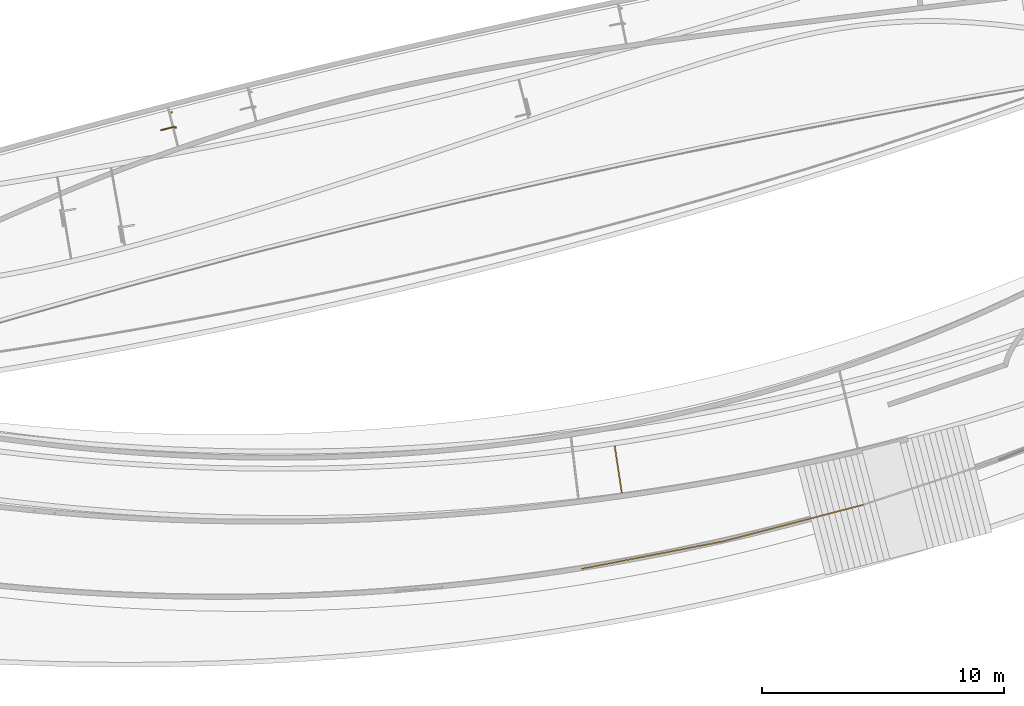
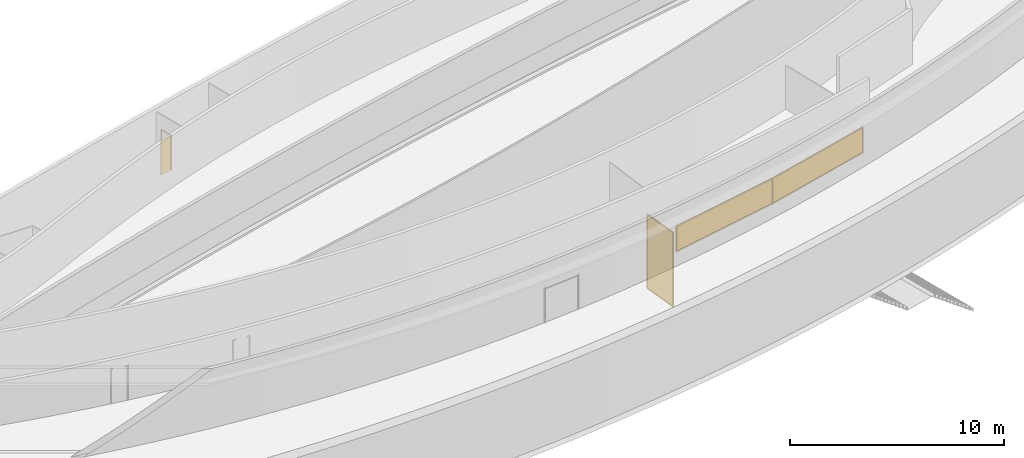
# Not in any storey, part 12 of 16: 2 windows, 1 curtain wall, 1 door.
"""IFC2X3 model written with IfcOpenShell, lengths in millimetres."""

from ifc_helpers import new_model, entity, si_unit, converted_unit, direction, frame, origin_with_axes, place, context, project, spatial, open_shell, faceted_brep, surface_model, source, transform, mapped, type_object, element, save


model = new_model("IFC2X3")

# Units and contexts
model_context = context("Model", 3, precision=1.0, world=origin_with_axes(), true_north=direction((0.0, 1.0)))
ifc_project = project(units=[converted_unit("PLANEANGLEUNIT", "DEGREE", entity("IfcRatioMeasure", 0.017453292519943), si_unit("PLANEANGLEUNIT", "RADIAN"), dimensions=[0, 0, 0, 0, 0, 0, 0]), si_unit("LENGTHUNIT", "METRE", prefix="MILLI")], contexts=[model_context])

# Site
site_placement = place(None, origin_with_axes())
site = spatial("IfcSite", under=ifc_project, at=site_placement, Name="Site", CompositionType="ELEMENT")

# Windows
window_style = type_object("IfcWindowStyle", Name="Fixed", ConstructionType="NOTDEFINED", OperationType="SINGLE_PANEL", ParameterTakesPrecedence=True, Sizeable=False)
shared_shape_1 = source(origin_with_axes(), model_context, "Body", "Brep", [
    faceted_brep([(2950.0, -25.0, 50.0), (2950.0, -25.0, 516.666687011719), (2950.0, -25.0, 983.333312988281), (2950.0, -25.0, 1450.0), (2360.0, -25.0, 1450.0), (1770.0, -25.0, 1450.0), (1180.0, -25.0, 1450.0), (590.0, -25.0, 1450.0), (4.55e-13, -25.0, 1450.0), (-590.0, -25.0, 1450.0), (-1180.0, -25.0, 1450.0), (-1770.0, -25.0, 1450.0), (-2360.0, -25.0, 1450.0), (-2950.0, -25.0, 1450.0), (-2950.0, -25.0, 983.333312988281), (-2950.0, -25.0, 516.666687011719), (-2950.0, -25.0, 50.0), (-2360.0, -25.0, 50.0), (-1770.0, -25.0, 50.0), (-1180.0, -25.0, 50.0), (-590.0, -25.0, 50.0), (4.55e-13, -25.0, 50.0), (590.0, -25.0, 50.0), (1180.0, -25.0, 50.0), (1770.0, -25.0, 50.0), (2360.0, -25.0, 50.0), (-3000.0, -25.0, 3.638e-12), (-2400.0, -25.0, 3.456e-12), (-1800.0, -25.0, 3.274e-12), (-1200.0, -25.0, 3.092e-12), (-600.0, -25.0, 2.91e-12), (0.0, -25.0, 2.728e-12), (600.0, -25.0, 2.547e-12), (1200.0, -25.0, 2.365e-12), (1800.0, -25.0, 2.183e-12), (2400.0, -25.0, 2.001e-12), (3000.0, -25.0, 1.819e-12), (3000.0, -25.0, 500.0), (3000.0, -25.0, 1000.0), (3000.0, -25.0, 1500.0), (2400.0, -25.0, 1500.0), (1800.0, -25.0, 1500.0), (1200.0, -25.0, 1500.0), (600.0, -25.0, 1500.0), (0.0, -25.0, 1500.0), (-600.0, -25.0, 1500.0), (-1200.0, -25.0, 1500.0), (-1800.0, -25.0, 1500.0), (-2400.0, -25.0, 1500.0), (-3000.0, -25.0, 1500.0), (-3000.0, -25.0, 1000.0), (-3000.0, -25.0, 500.0), (3000.0, 25.0, 1500.0), (3000.0, -25.0, 1500.0), (3000.0, -25.0, 1000.0), (3000.0, -25.0, 500.0), (3000.0, -25.0, 1.819e-12), (3000.0, 25.0, 1.819e-12), (3000.0, 25.0, 500.0), (3000.0, 25.0, 1000.0), (3000.0, 25.0, 1.819e-12), (3000.0, -25.0, 1.819e-12), (2400.0, -25.0, 2.001e-12), (1800.0, -25.0, 2.183e-12), (1200.0, -25.0, 2.365e-12), (600.0, -25.0, 2.547e-12), (0.0, -25.0, 2.728e-12), (-600.0, -25.0, 2.91e-12), (-1200.0, -25.0, 3.092e-12), (-1800.0, -25.0, 3.274e-12), (-2400.0, -25.0, 3.456e-12), (-3000.0, -25.0, 3.638e-12), (-3000.0, 25.0, 3.638e-12), (-2400.0, 25.0, 3.456e-12), (-1800.0, 25.0, 3.274e-12), (-1200.0, 25.0, 3.092e-12), (-600.0, 25.0, 2.91e-12), (0.0, 25.0, 2.728e-12), (600.0, 25.0, 2.547e-12), (1200.0, 25.0, 2.365e-12), (1800.0, 25.0, 2.183e-12), (2400.0, 25.0, 2.001e-12), (-3000.0, 25.0, 1500.0), (-3000.0, -25.0, 1500.0), (-2400.0, -25.0, 1500.0), (-1800.0, -25.0, 1500.0), (-1200.0, -25.0, 1500.0), (-600.0, -25.0, 1500.0), (0.0, -25.0, 1500.0), (600.0, -25.0, 1500.0), (1200.0, -25.0, 1500.0), (1800.0, -25.0, 1500.0), (2400.0, -25.0, 1500.0), (3000.0, -25.0, 1500.0), (3000.0, 25.0, 1500.0), (2400.0, 25.0, 1500.0), (1800.0, 25.0, 1500.0), (1200.0, 25.0, 1500.0), (600.0, 25.0, 1500.0), (0.0, 25.0, 1500.0), (-600.0, 25.0, 1500.0), (-1200.0, 25.0, 1500.0), (-1800.0, 25.0, 1500.0), (-2400.0, 25.0, 1500.0), (2950.0, 25.0, 50.0), (2950.0, -25.0, 50.0), (2950.0, -25.0, 516.666687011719), (2950.0, -25.0, 983.333312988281), (2950.0, -25.0, 1450.0), (2950.0, 25.0, 1450.0), (2950.0, 25.0, 983.333312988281), (2950.0, 25.0, 516.666687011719), (2950.0, 25.0, 1450.0), (2950.0, -25.0, 1450.0), (2360.0, -25.0, 1450.0), (1770.0, -25.0, 1450.0), (1180.0, -25.0, 1450.0), (590.0, -25.0, 1450.0), (4.55e-13, -25.0, 1450.0), (-590.0, -25.0, 1450.0), (-1180.0, -25.0, 1450.0), (-1770.0, -25.0, 1450.0), (-2360.0, -25.0, 1450.0), (-2950.0, -25.0, 1450.0), (-2950.0, 25.0, 1450.0), (-2360.0, 25.0, 1450.0), (-1770.0, 25.0, 1450.0), (-1180.0, 25.0, 1450.0), (-590.0, 25.0, 1450.0), (4.55e-13, 25.0, 1450.0), (590.0, 25.0, 1450.0), (1180.0, 25.0, 1450.0), (1770.0, 25.0, 1450.0), (2360.0, 25.0, 1450.0), (-3000.0, 25.0, 3.638e-12), (-3000.0, -25.0, 3.638e-12), (-3000.0, -25.0, 500.0), (-3000.0, -25.0, 1000.0), (-3000.0, -25.0, 1500.0), (-3000.0, 25.0, 1500.0), (-3000.0, 25.0, 1000.0), (-3000.0, 25.0, 500.0), (-2950.0, 25.0, 1450.0), (-2950.0, -25.0, 1450.0), (-2950.0, -25.0, 983.333312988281), (-2950.0, -25.0, 516.666687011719), (-2950.0, -25.0, 50.0), (-2950.0, 25.0, 50.0), (-2950.0, 25.0, 516.666687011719), (-2950.0, 25.0, 983.333312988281), (-2950.0, 25.0, 50.0), (-2950.0, -25.0, 50.0), (-2360.0, -25.0, 50.0), (-1770.0, -25.0, 50.0), (-1180.0, -25.0, 50.0), (-590.0, -25.0, 50.0), (4.55e-13, -25.0, 50.0), (590.0, -25.0, 50.0), (1180.0, -25.0, 50.0), (1770.0, -25.0, 50.0), (2360.0, -25.0, 50.0), (2950.0, -25.0, 50.0), (2950.0, 25.0, 50.0), (2360.0, 25.0, 50.0), (1770.0, 25.0, 50.0), (1180.0, 25.0, 50.0), (590.0, 25.0, 50.0), (4.55e-13, 25.0, 50.0), (-590.0, 25.0, 50.0), (-1180.0, 25.0, 50.0), (-1770.0, 25.0, 50.0), (-2360.0, 25.0, 50.0), (-2950.0, 25.0, 516.666687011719), (-2950.0, 25.0, 983.333312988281), (-2950.0, 25.0, 1450.0), (-2360.0, 25.0, 1450.0), (-1770.0, 25.0, 1450.0), (-1180.0, 25.0, 1450.0), (-590.0, 25.0, 1450.0), (4.55e-13, 25.0, 1450.0), (590.0, 25.0, 1450.0), (1180.0, 25.0, 1450.0), (1770.0, 25.0, 1450.0), (2360.0, 25.0, 1450.0), (2950.0, 25.0, 1450.0), (2950.0, 25.0, 983.333312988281), (2950.0, 25.0, 516.666687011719), (2950.0, 25.0, 50.0), (2360.0, 25.0, 50.0), (1770.0, 25.0, 50.0), (1180.0, 25.0, 50.0), (590.0, 25.0, 50.0), (4.55e-13, 25.0, 50.0), (-590.0, 25.0, 50.0), (-1180.0, 25.0, 50.0), (-1770.0, 25.0, 50.0), (-2360.0, 25.0, 50.0), (-2950.0, 25.0, 50.0), (-2400.0, 25.0, 3.456e-12), (-3000.0, 25.0, 3.638e-12), (-3000.0, 25.0, 500.0), (-3000.0, 25.0, 1000.0), (-3000.0, 25.0, 1500.0), (-2400.0, 25.0, 1500.0), (-1800.0, 25.0, 1500.0), (-1200.0, 25.0, 1500.0), (-600.0, 25.0, 1500.0), (0.0, 25.0, 1500.0), (600.0, 25.0, 1500.0), (1200.0, 25.0, 1500.0), (1800.0, 25.0, 1500.0), (2400.0, 25.0, 1500.0), (3000.0, 25.0, 1500.0), (3000.0, 25.0, 1000.0), (3000.0, 25.0, 500.0), (3000.0, 25.0, 1.819e-12), (2400.0, 25.0, 2.001e-12), (1800.0, 25.0, 2.183e-12), (1200.0, 25.0, 2.365e-12), (600.0, 25.0, 2.547e-12), (0.0, 25.0, 2.728e-12), (-600.0, 25.0, 2.91e-12), (-1200.0, 25.0, 3.092e-12), (-1800.0, 25.0, 3.274e-12)], [[[0, 1, 2, 3, 4, 5, 6, 7, 8, 9, 10, 11, 12, 13, 14, 15, 16, 17, 18, 19, 20, 21, 22, 23, 24, 25], [26, 27, 28, 29, 30, 31, 32, 33, 34, 35, 36, 37, 38, 39, 40, 41, 42, 43, 44, 45, 46, 47, 48, 49, 50, 51]], [[52, 53, 54, 55, 56, 57, 58, 59]], [[60, 61, 62, 63, 64, 65, 66, 67, 68, 69, 70, 71, 72, 73, 74, 75, 76, 77, 78, 79, 80, 81]], [[82, 83, 84, 85, 86, 87, 88, 89, 90, 91, 92, 93, 94, 95, 96, 97, 98, 99, 100, 101, 102, 103]], [[104, 105, 106, 107, 108, 109, 110, 111]], [[112, 113, 114, 115, 116, 117, 118, 119, 120, 121, 122, 123, 124, 125, 126, 127, 128, 129, 130, 131, 132, 133]], [[134, 135, 136, 137, 138, 139, 140, 141]], [[142, 143, 144, 145, 146, 147, 148, 149]], [[150, 151, 152, 153, 154, 155, 156, 157, 158, 159, 160, 161, 162, 163, 164, 165, 166, 167, 168, 169, 170, 171]], [[172, 173, 174, 175, 176, 177, 178, 179, 180, 181, 182, 183, 184, 185, 186, 187, 188, 189, 190, 191, 192, 193, 194, 195, 196, 197], [198, 199, 200, 201, 202, 203, 204, 205, 206, 207, 208, 209, 210, 211, 212, 213, 214, 215, 216, 217, 218, 219, 220, 221, 222, 223]]], outer=[[False, True], [True], [True], [True], [True], [True], [True], [True], [True], [False, True]]),
])
shared_shape_2 = source(origin_with_axes(), model_context, "Body", "SurfaceModel", [
    surface_model("IfcShellBasedSurfaceModel", [(-2950.0, 0.0, 1450.0), (-2950.0, 0.0, 50.0), (2950.0, 1.64e-13, 50.0), (2950.0, 1.64e-13, 1450.0)], [open_shell([[[0, 1, 2, 3]]])]),
])
shared_shape_3 = source(origin_with_axes(), model_context, "Body", "MappedRepresentation", [
    mapped(shared_shape_1, transform((0.0, 0.0, 0.0))),
    mapped(shared_shape_2, transform((0.0, 0.0, 0.0))),
])
window_1_placement = place(site_placement, frame((4243.92163036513, -14053.1029109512, 10350.0), z_axis=(0.0, 0.0, 1.0), x_axis=(0.967549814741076, 0.252680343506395, 0.0)))
element("IfcWindow", 1, at=window_1_placement, inside=site, type_object=window_style, ObjectType="Fixed", OverallHeight=1500.0, OverallWidth=6000.0, context=model_context, shape_type="MappedRepresentation", body=[
    mapped(shared_shape_3, transform((0.0, 0.0, 0.0))),
])
shared_shape_4 = source(origin_with_axes(), model_context, "Body", "Brep", [
    faceted_brep([(2950.0, -25.0, 50.0), (2950.0, -25.0, 516.666687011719), (2950.0, -25.0, 983.333312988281), (2950.0, -25.0, 1450.0), (2360.0, -25.0, 1450.0), (1770.0, -25.0, 1450.0), (1180.0, -25.0, 1450.0), (590.0, -25.0, 1450.0), (6.82e-13, -25.0, 1450.0), (-590.0, -25.0, 1450.0), (-1180.0, -25.0, 1450.0), (-1770.0, -25.0, 1450.0), (-2360.0, -25.0, 1450.0), (-2950.0, -25.0, 1450.0), (-2950.0, -25.0, 983.333312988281), (-2950.0, -25.0, 516.666687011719), (-2950.0, -25.0, 50.0), (-2360.0, -25.0, 50.0), (-1770.0, -25.0, 50.0), (-1180.0, -25.0, 50.0), (-590.0, -25.0, 50.0), (6.82e-13, -25.0, 50.0), (590.0, -25.0, 50.0), (1180.0, -25.0, 50.0), (1770.0, -25.0, 50.0), (2360.0, -25.0, 50.0), (-3000.0, -25.0, 0.0), (-2400.0, -25.0, 0.0), (-1800.0, -25.0, 0.0), (-1200.0, -25.0, 0.0), (-600.0, -25.0, 0.0), (4.55e-13, -25.0, 0.0), (600.0, -25.0, 0.0), (1200.0, -25.0, 0.0), (1800.0, -25.0, 0.0), (2400.0, -25.0, 0.0), (3000.0, -25.0, 0.0), (3000.0, -25.0, 500.0), (3000.0, -25.0, 1000.0), (3000.0, -25.0, 1500.0), (2400.0, -25.0, 1500.0), (1800.0, -25.0, 1500.0), (1200.0, -25.0, 1500.0), (600.0, -25.0, 1500.0), (4.55e-13, -25.0, 1500.0), (-600.0, -25.0, 1500.0), (-1200.0, -25.0, 1500.0), (-1800.0, -25.0, 1500.0), (-2400.0, -25.0, 1500.0), (-3000.0, -25.0, 1500.0), (-3000.0, -25.0, 1000.0), (-3000.0, -25.0, 500.0), (3000.0, 25.0, 0.0), (3000.0, -25.0, 0.0), (2400.0, -25.0, 0.0), (1800.0, -25.0, 0.0), (1200.0, -25.0, 0.0), (600.0, -25.0, 0.0), (4.55e-13, -25.0, 0.0), (-600.0, -25.0, 0.0), (-1200.0, -25.0, 0.0), (-1800.0, -25.0, 0.0), (-2400.0, -25.0, 0.0), (-3000.0, -25.0, 0.0), (-3000.0, 25.0, 0.0), (-2400.0, 25.0, 0.0), (-1800.0, 25.0, 0.0), (-1200.0, 25.0, 0.0), (-600.0, 25.0, 0.0), (-4.55e-13, 25.0, 0.0), (600.0, 25.0, 0.0), (1200.0, 25.0, 0.0), (1800.0, 25.0, 0.0), (2400.0, 25.0, 0.0), (3000.0, 25.0, 1500.0), (3000.0, -25.0, 1500.0), (3000.0, -25.0, 1000.0), (3000.0, -25.0, 500.0), (3000.0, -25.0, 0.0), (3000.0, 25.0, 0.0), (3000.0, 25.0, 500.0), (3000.0, 25.0, 1000.0), (2950.0, 25.0, 1450.0), (2950.0, -25.0, 1450.0), (2360.0, -25.0, 1450.0), (1770.0, -25.0, 1450.0), (1180.0, -25.0, 1450.0), (590.0, -25.0, 1450.0), (6.82e-13, -25.0, 1450.0), (-590.0, -25.0, 1450.0), (-1180.0, -25.0, 1450.0), (-1770.0, -25.0, 1450.0), (-2360.0, -25.0, 1450.0), (-2950.0, -25.0, 1450.0), (-2950.0, 25.0, 1450.0), (-2360.0, 25.0, 1450.0), (-1770.0, 25.0, 1450.0), (-1180.0, 25.0, 1450.0), (-590.0, 25.0, 1450.0), (-4.55e-13, 25.0, 1450.0), (590.0, 25.0, 1450.0), (1180.0, 25.0, 1450.0), (1770.0, 25.0, 1450.0), (2360.0, 25.0, 1450.0), (-3000.0, 25.0, 1500.0), (-3000.0, -25.0, 1500.0), (-2400.0, -25.0, 1500.0), (-1800.0, -25.0, 1500.0), (-1200.0, -25.0, 1500.0), (-600.0, -25.0, 1500.0), (4.55e-13, -25.0, 1500.0), (600.0, -25.0, 1500.0), (1200.0, -25.0, 1500.0), (1800.0, -25.0, 1500.0), (2400.0, -25.0, 1500.0), (3000.0, -25.0, 1500.0), (3000.0, 25.0, 1500.0), (2400.0, 25.0, 1500.0), (1800.0, 25.0, 1500.0), (1200.0, 25.0, 1500.0), (600.0, 25.0, 1500.0), (-4.55e-13, 25.0, 1500.0), (-600.0, 25.0, 1500.0), (-1200.0, 25.0, 1500.0), (-1800.0, 25.0, 1500.0), (-2400.0, 25.0, 1500.0), (-2950.0, 25.0, 1450.0), (-2950.0, -25.0, 1450.0), (-2950.0, -25.0, 983.333312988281), (-2950.0, -25.0, 516.666687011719), (-2950.0, -25.0, 50.0), (-2950.0, 25.0, 50.0), (-2950.0, 25.0, 516.666687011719), (-2950.0, 25.0, 983.333312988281), (-3000.0, 25.0, 0.0), (-3000.0, -25.0, 0.0), (-3000.0, -25.0, 500.0), (-3000.0, -25.0, 1000.0), (-3000.0, -25.0, 1500.0), (-3000.0, 25.0, 1500.0), (-3000.0, 25.0, 1000.0), (-3000.0, 25.0, 500.0), (2950.0, 25.0, 50.0), (2950.0, -25.0, 50.0), (2950.0, -25.0, 516.666687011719), (2950.0, -25.0, 983.333312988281), (2950.0, -25.0, 1450.0), (2950.0, 25.0, 1450.0), (2950.0, 25.0, 983.333312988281), (2950.0, 25.0, 516.666687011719), (-2950.0, 25.0, 50.0), (-2950.0, -25.0, 50.0), (-2360.0, -25.0, 50.0), (-1770.0, -25.0, 50.0), (-1180.0, -25.0, 50.0), (-590.0, -25.0, 50.0), (6.82e-13, -25.0, 50.0), (590.0, -25.0, 50.0), (1180.0, -25.0, 50.0), (1770.0, -25.0, 50.0), (2360.0, -25.0, 50.0), (2950.0, -25.0, 50.0), (2950.0, 25.0, 50.0), (2360.0, 25.0, 50.0), (1770.0, 25.0, 50.0), (1180.0, 25.0, 50.0), (590.0, 25.0, 50.0), (-4.55e-13, 25.0, 50.0), (-590.0, 25.0, 50.0), (-1180.0, 25.0, 50.0), (-1770.0, 25.0, 50.0), (-2360.0, 25.0, 50.0), (-2950.0, 25.0, 516.666687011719), (-2950.0, 25.0, 983.333312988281), (-2950.0, 25.0, 1450.0), (-2360.0, 25.0, 1450.0), (-1770.0, 25.0, 1450.0), (-1180.0, 25.0, 1450.0), (-590.0, 25.0, 1450.0), (-4.55e-13, 25.0, 1450.0), (590.0, 25.0, 1450.0), (1180.0, 25.0, 1450.0), (1770.0, 25.0, 1450.0), (2360.0, 25.0, 1450.0), (2950.0, 25.0, 1450.0), (2950.0, 25.0, 983.333312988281), (2950.0, 25.0, 516.666687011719), (2950.0, 25.0, 50.0), (2360.0, 25.0, 50.0), (1770.0, 25.0, 50.0), (1180.0, 25.0, 50.0), (590.0, 25.0, 50.0), (-4.55e-13, 25.0, 50.0), (-590.0, 25.0, 50.0), (-1180.0, 25.0, 50.0), (-1770.0, 25.0, 50.0), (-2360.0, 25.0, 50.0), (-2950.0, 25.0, 50.0), (-2400.0, 25.0, 0.0), (-3000.0, 25.0, 0.0), (-3000.0, 25.0, 500.0), (-3000.0, 25.0, 1000.0), (-3000.0, 25.0, 1500.0), (-2400.0, 25.0, 1500.0), (-1800.0, 25.0, 1500.0), (-1200.0, 25.0, 1500.0), (-600.0, 25.0, 1500.0), (-4.55e-13, 25.0, 1500.0), (600.0, 25.0, 1500.0), (1200.0, 25.0, 1500.0), (1800.0, 25.0, 1500.0), (2400.0, 25.0, 1500.0), (3000.0, 25.0, 1500.0), (3000.0, 25.0, 1000.0), (3000.0, 25.0, 500.0), (3000.0, 25.0, 0.0), (2400.0, 25.0, 0.0), (1800.0, 25.0, 0.0), (1200.0, 25.0, 0.0), (600.0, 25.0, 0.0), (-4.55e-13, 25.0, 0.0), (-600.0, 25.0, 0.0), (-1200.0, 25.0, 0.0), (-1800.0, 25.0, 0.0)], [[[0, 1, 2, 3, 4, 5, 6, 7, 8, 9, 10, 11, 12, 13, 14, 15, 16, 17, 18, 19, 20, 21, 22, 23, 24, 25], [26, 27, 28, 29, 30, 31, 32, 33, 34, 35, 36, 37, 38, 39, 40, 41, 42, 43, 44, 45, 46, 47, 48, 49, 50, 51]], [[52, 53, 54, 55, 56, 57, 58, 59, 60, 61, 62, 63, 64, 65, 66, 67, 68, 69, 70, 71, 72, 73]], [[74, 75, 76, 77, 78, 79, 80, 81]], [[82, 83, 84, 85, 86, 87, 88, 89, 90, 91, 92, 93, 94, 95, 96, 97, 98, 99, 100, 101, 102, 103]], [[104, 105, 106, 107, 108, 109, 110, 111, 112, 113, 114, 115, 116, 117, 118, 119, 120, 121, 122, 123, 124, 125]], [[126, 127, 128, 129, 130, 131, 132, 133]], [[134, 135, 136, 137, 138, 139, 140, 141]], [[142, 143, 144, 145, 146, 147, 148, 149]], [[150, 151, 152, 153, 154, 155, 156, 157, 158, 159, 160, 161, 162, 163, 164, 165, 166, 167, 168, 169, 170, 171]], [[172, 173, 174, 175, 176, 177, 178, 179, 180, 181, 182, 183, 184, 185, 186, 187, 188, 189, 190, 191, 192, 193, 194, 195, 196, 197], [198, 199, 200, 201, 202, 203, 204, 205, 206, 207, 208, 209, 210, 211, 212, 213, 214, 215, 216, 217, 218, 219, 220, 221, 222, 223]]], outer=[[False, True], [True], [True], [True], [True], [True], [True], [True], [True], [False, True]]),
])
shared_shape_5 = source(origin_with_axes(), model_context, "Body", "SurfaceModel", [
    surface_model("IfcShellBasedSurfaceModel", [(-2950.0, 0.0, 1450.0), (-2950.0, 0.0, 50.0), (2950.0, 0.0, 50.0), (2950.0, 0.0, 1450.0)], [open_shell([[[0, 1, 2, 3]]])]),
])
shared_shape_6 = source(origin_with_axes(), model_context, "Body", "MappedRepresentation", [
    mapped(shared_shape_4, transform((0.0, 0.0, 0.0))),
    mapped(shared_shape_5, transform((0.0, 0.0, 0.0))),
])
window_2_placement = place(site_placement, frame((-1553.37392185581, -15371.0635832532, 10350.0), z_axis=(0.0, 0.0, 1.0), x_axis=(0.981694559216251, 0.190462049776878, 0.0)))
element("IfcWindow", 2, at=window_2_placement, inside=site, type_object=window_style, ObjectType="Fixed", OverallHeight=1500.0, OverallWidth=6000.0, context=model_context, shape_type="MappedRepresentation", body=[
    mapped(shared_shape_6, transform((0.0, 0.0, 0.0))),
])

# Door
door_style = type_object("IfcDoorStyle", Name="Hinged", ConstructionType="NOTDEFINED", OperationType="SINGLE_SWING_RIGHT", ParameterTakesPrecedence=True, Sizeable=False)
shared_shape_7 = source(origin_with_axes(), model_context, "Body", "Brep", [
    faceted_brep([(350.0, -25.0, 0.0), (350.0, -25.0, 1000.0), (350.0, -25.0, 2000.0), (0.0, -25.0, 2000.0), (-350.0, -25.0, 2000.0), (-350.0, -25.0, 1000.0), (-350.0, -25.0, 0.0), (-325.0, -25.0, 0.0), (-300.0, -25.0, 0.0), (-300.0, -25.0, 975.0), (-300.0, -25.0, 1950.0), (4.55e-13, -25.0, 1950.0), (300.0, -25.0, 1950.0), (300.0, -25.0, 975.0), (300.0, -25.0, 0.0), (325.0, -25.0, 0.0), (350.0, -25.0, 1000.0), (350.0, -25.0, 0.0), (350.0, 0.0, 0.0), (350.0, 25.0, 0.0), (350.0, 25.0, 1000.0), (350.0, 25.0, 2000.0), (350.0, -25.0, 2000.0), (-300.0, -25.0, 975.0), (-300.0, -25.0, 0.0), (-300.0, 0.0, 0.0), (-300.0, 25.0, 0.0), (-300.0, 25.0, 975.0), (-300.0, 25.0, 1950.0), (-300.0, -25.0, 1950.0), (-350.0, -25.0, 2000.0), (-350.0, 25.0, 2000.0), (-350.0, 25.0, 1000.0), (-350.0, 25.0, 0.0), (-350.0, 0.0, 0.0), (-350.0, -25.0, 0.0), (-350.0, -25.0, 1000.0), (300.0, -25.0, 1950.0), (300.0, 25.0, 1950.0), (300.0, 25.0, 975.0), (300.0, 25.0, 0.0), (300.0, 1.819e-12, 0.0), (300.0, -25.0, 0.0), (300.0, -25.0, 975.0), (-325.0, -25.0, 0.0), (-350.0, -25.0, 0.0), (-350.0, 0.0, 0.0), (-350.0, 25.0, 0.0), (-325.0, 25.0, 0.0), (-300.0, 25.0, 0.0), (-300.0, 0.0, 0.0), (-300.0, -25.0, 0.0), (-300.0, -25.0, 1950.0), (-300.0, 25.0, 1950.0), (4.55e-13, 25.0, 1950.0), (300.0, 25.0, 1950.0), (300.0, -25.0, 1950.0), (4.55e-13, -25.0, 1950.0), (350.0, -25.0, 2000.0), (350.0, 25.0, 2000.0), (0.0, 25.0, 2000.0), (-350.0, 25.0, 2000.0), (-350.0, -25.0, 2000.0), (0.0, -25.0, 2000.0), (350.0, 25.0, 1000.0), (350.0, 25.0, 0.0), (325.0, 25.0, 0.0), (300.0, 25.0, 0.0), (300.0, 25.0, 975.0), (300.0, 25.0, 1950.0), (4.55e-13, 25.0, 1950.0), (-300.0, 25.0, 1950.0), (-300.0, 25.0, 975.0), (-300.0, 25.0, 0.0), (-325.0, 25.0, 0.0), (-350.0, 25.0, 0.0), (-350.0, 25.0, 1000.0), (-350.0, 25.0, 2000.0), (0.0, 25.0, 2000.0), (350.0, 25.0, 2000.0), (325.0, -25.0, 0.0), (300.0, -25.0, 0.0), (300.0, 1.819e-12, 0.0), (300.0, 25.0, 0.0), (325.0, 25.0, 0.0), (350.0, 25.0, 0.0), (350.0, 0.0, 0.0), (350.0, -25.0, 0.0)], [[[0, 1, 2, 3, 4, 5, 6, 7, 8, 9, 10, 11, 12, 13, 14, 15]], [[16, 17, 18, 19, 20, 21, 22]], [[23, 24, 25, 26, 27, 28, 29]], [[30, 31, 32, 33, 34, 35, 36]], [[37, 38, 39, 40, 41, 42, 43]], [[44, 45, 46, 47, 48, 49, 50, 51]], [[52, 53, 54, 55, 56, 57]], [[58, 59, 60, 61, 62, 63]], [[64, 65, 66, 67, 68, 69, 70, 71, 72, 73, 74, 75, 76, 77, 78, 79]], [[80, 81, 82, 83, 84, 85, 86, 87]]]),
    faceted_brep([(-260.0, 25.0, 0.0), (-300.0, 25.0, 0.0), (-300.0, 325.0, 0.0), (-300.0, 625.0, 0.0), (-260.0, 625.0, 0.0), (-260.0, 325.0, 0.0), (-260.0, 25.0, 1950.0), (-300.0, 25.0, 1950.0), (-300.0, 25.0, 975.0), (-300.0, 25.0, 0.0), (-260.0, 25.0, 0.0), (-260.0, 25.0, 975.0), (-260.0, 625.0, 0.0), (-300.0, 625.0, 0.0), (-300.0, 625.0, 975.0), (-300.0, 625.0, 1950.0), (-260.0, 625.0, 1950.0), (-260.0, 625.0, 975.0), (-260.0, 625.0, 1950.0), (-300.0, 625.0, 1950.0), (-300.0, 325.0, 1950.0), (-300.0, 25.0, 1950.0), (-260.0, 25.0, 1950.0), (-260.0, 325.0, 1950.0), (-300.0, 625.0, 0.0), (-300.0, 325.0, 0.0), (-300.0, 25.0, 0.0), (-300.0, 25.0, 975.0), (-300.0, 25.0, 1950.0), (-300.0, 325.0, 1950.0), (-300.0, 625.0, 1950.0), (-300.0, 625.0, 975.0), (-260.0, 625.0, 975.0), (-260.0, 625.0, 1950.0), (-260.0, 325.0, 1950.0), (-260.0, 25.0, 1950.0), (-260.0, 25.0, 975.0), (-260.0, 25.0, 0.0), (-260.0, 325.0, 0.0), (-260.0, 625.0, 0.0)], [[[0, 1, 2, 3, 4, 5]], [[6, 7, 8, 9, 10, 11]], [[12, 13, 14, 15, 16, 17]], [[18, 19, 20, 21, 22, 23]], [[24, 25, 26, 27, 28, 29, 30, 31]], [[32, 33, 34, 35, 36, 37, 38, 39]]]),
])
door_placement = place(site_placement, frame((-21323.6665869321, 2592.0986916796, 9850.0), z_axis=(0.0, 0.0, 1.0), x_axis=(-0.246883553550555, 0.969045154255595, 0.0)))
element("IfcDoor", 3, at=door_placement, inside=site, type_object=door_style, ObjectType="Hinged", OverallHeight=2000.0, OverallWidth=700.0, context=model_context, shape_type="MappedRepresentation", body=[
    mapped(shared_shape_7, transform((0.0, 0.0, 0.0))),
])

# Curtain wall
curtain_wall_type = type_object("IfcCurtainWallType", Name="Single Panel", PredefinedType="USERDEFINED")
shared_shape_8 = source(origin_with_axes(), model_context, "Body", "Brep", [
    faceted_brep([(-2804.82568359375, -12759.0419921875, 4770.00146484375), (-2854.2626953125, -12766.5244140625, 4770.00146484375), (-2854.2626953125, -12766.5244140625, 6860.00146484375), (-2854.2626953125, -12766.5244140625, 8950.001953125), (-2804.82568359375, -12759.0419921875, 8950.001953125), (-2804.82568359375, -12759.0419921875, 6860.00146484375), (-2854.2626953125, -12766.5244140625, 4770.00146484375), (-2846.78100585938, -12815.9609375, 4770.00146484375), (-2846.78100585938, -12815.9609375, 6860.00146484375), (-2846.78100585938, -12815.9609375, 8950.001953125), (-2854.2626953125, -12766.5244140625, 8950.001953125), (-2854.2626953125, -12766.5244140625, 6860.00146484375), (-2854.2626953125, -12766.5244140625, 4770.00146484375), (-2804.82568359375, -12759.0419921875, 4770.00146484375), (-2801.08471679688, -12783.7607421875, 4770.00146484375), (-2797.34375, -12808.4794921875, 4770.00146484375), (-2822.06225585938, -12812.2197265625, 4770.00146484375), (-2846.78100585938, -12815.9609375, 4770.00146484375), (-2797.34375, -12808.4794921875, 4770.00146484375), (-2801.08471679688, -12783.7607421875, 4770.00146484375), (-2804.82568359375, -12759.0419921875, 4770.00146484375), (-2804.82568359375, -12759.0419921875, 6860.00146484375), (-2804.82568359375, -12759.0419921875, 8950.001953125), (-2801.08471679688, -12783.7607421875, 8950.001953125), (-2797.34375, -12808.4794921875, 8950.001953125), (-2797.34375, -12808.4794921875, 6860.00146484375), (-2846.78100585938, -12815.9609375, 4770.00146484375), (-2822.06225585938, -12812.2197265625, 4770.00146484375), (-2797.34375, -12808.4794921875, 4770.00146484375), (-2797.34375, -12808.4794921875, 6860.00146484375), (-2797.34375, -12808.4794921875, 8950.001953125), (-2822.06225585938, -12812.2197265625, 8950.001953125), (-2846.78100585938, -12815.9609375, 8950.001953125), (-2846.78100585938, -12815.9609375, 6860.00146484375), (-2804.82568359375, -12759.0419921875, 8950.001953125), (-2854.2626953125, -12766.5244140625, 8950.001953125), (-2846.78100585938, -12815.9609375, 8950.001953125), (-2822.06225585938, -12812.2197265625, 8950.001953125), (-2797.34375, -12808.4794921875, 8950.001953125), (-2801.08471679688, -12783.7607421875, 8950.001953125)], [[[0, 1, 2, 3, 4, 5]], [[6, 7, 8, 9, 10, 11]], [[12, 13, 14, 15, 16, 17]], [[18, 19, 20, 21, 22, 23, 24, 25]], [[26, 27, 28, 29, 30, 31, 32, 33]], [[34, 35, 36, 37, 38, 39]]]),
    faceted_brep([(-3085.00512695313, -10907.7099609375, 4770.00146484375), (-3092.48706054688, -10858.2734375, 4770.00146484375), (-3092.48706054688, -10858.2734375, 6860.00146484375), (-3092.48706054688, -10858.2734375, 8950.001953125), (-3085.00512695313, -10907.7099609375, 8950.001953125), (-3085.00512695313, -10907.7099609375, 6860.00146484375), (-3134.4423828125, -10915.1923828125, 4770.00146484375), (-3085.00512695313, -10907.7099609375, 4770.00146484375), (-3085.00512695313, -10907.7099609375, 6860.00146484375), (-3085.00512695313, -10907.7099609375, 8950.001953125), (-3134.4423828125, -10915.1923828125, 8950.001953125), (-3134.4423828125, -10915.1923828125, 6860.00146484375), (-3134.4423828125, -10915.1923828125, 8950.001953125), (-3085.00512695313, -10907.7099609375, 8950.001953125), (-3092.48706054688, -10858.2734375, 8950.001953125), (-3141.92407226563, -10865.7548828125, 8950.001953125), (-3085.00512695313, -10907.7099609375, 4770.00146484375), (-3134.4423828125, -10915.1923828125, 4770.00146484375), (-3141.92407226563, -10865.7548828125, 4770.00146484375), (-3092.48706054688, -10858.2734375, 4770.00146484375), (-3141.92407226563, -10865.7548828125, 4770.00146484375), (-3134.4423828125, -10915.1923828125, 4770.00146484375), (-3134.4423828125, -10915.1923828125, 6860.00146484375), (-3134.4423828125, -10915.1923828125, 8950.001953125), (-3141.92407226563, -10865.7548828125, 8950.001953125), (-3141.92407226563, -10865.7548828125, 6860.00146484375), (-3092.48706054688, -10858.2734375, 4770.00146484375), (-3141.92407226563, -10865.7548828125, 4770.00146484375), (-3141.92407226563, -10865.7548828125, 6860.00146484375), (-3141.92407226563, -10865.7548828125, 8950.001953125), (-3092.48706054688, -10858.2734375, 8950.001953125), (-3092.48706054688, -10858.2734375, 6860.00146484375)], [[[0, 1, 2, 3, 4, 5]], [[6, 7, 8, 9, 10, 11]], [[12, 13, 14, 15]], [[16, 17, 18, 19]], [[20, 21, 22, 23, 24, 25]], [[26, 27, 28, 29, 30, 31]]]),
    faceted_brep([(-2797.34375, -12808.4794921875, 4770.00146484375), (-2797.34375, -12808.4794921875, 4720.00146484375), (-2944.91552734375, -11833.3759765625, 4720.00146484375), (-3092.48706054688, -10858.2734375, 4720.00146484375), (-3092.48706054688, -10858.2734375, 4770.00146484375), (-3085.00512695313, -10907.7099609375, 4770.00146484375), (-2944.91552734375, -11833.3759765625, 4770.00146484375), (-2804.82568359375, -12759.0419921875, 4770.00146484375), (-2797.34375, -12808.4794921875, 4770.00146484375), (-2846.78100585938, -12815.9609375, 4770.00146484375), (-2846.78100585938, -12815.9609375, 4720.00146484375), (-2797.34375, -12808.4794921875, 4720.00146484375), (-2797.34375, -12808.4794921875, 4720.00146484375), (-2846.78100585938, -12815.9609375, 4720.00146484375), (-2994.3525390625, -11840.8583984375, 4720.00146484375), (-3141.92407226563, -10865.7548828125, 4720.00146484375), (-3092.48706054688, -10858.2734375, 4720.00146484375), (-2944.91552734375, -11833.3759765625, 4720.00146484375), (-2846.78100585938, -12815.9609375, 4770.00146484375), (-2797.34375, -12808.4794921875, 4770.00146484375), (-2804.82568359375, -12759.0419921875, 4770.00146484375), (-2944.91552734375, -11833.3759765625, 4770.00146484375), (-3085.00512695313, -10907.7099609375, 4770.00146484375), (-3092.48706054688, -10858.2734375, 4770.00146484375), (-3141.92407226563, -10865.7548828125, 4770.00146484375), (-3134.4423828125, -10915.1923828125, 4770.00146484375), (-2994.3525390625, -11840.8583984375, 4770.00146484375), (-2854.2626953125, -12766.5244140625, 4770.00146484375), (-3141.92407226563, -10865.7548828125, 4770.00146484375), (-3092.48706054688, -10858.2734375, 4770.00146484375), (-3092.48706054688, -10858.2734375, 4720.00146484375), (-3141.92407226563, -10865.7548828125, 4720.00146484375), (-2846.78100585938, -12815.9609375, 4720.00146484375), (-2846.78100585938, -12815.9609375, 4770.00146484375), (-2854.2626953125, -12766.5244140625, 4770.00146484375), (-2994.3525390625, -11840.8583984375, 4770.00146484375), (-3134.4423828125, -10915.1923828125, 4770.00146484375), (-3141.92407226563, -10865.7548828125, 4770.00146484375), (-3141.92407226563, -10865.7548828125, 4720.00146484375), (-2994.3525390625, -11840.8583984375, 4720.00146484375)], [[[0, 1, 2, 3, 4, 5, 6, 7]], [[8, 9, 10, 11]], [[12, 13, 14, 15, 16, 17]], [[18, 19, 20, 21, 22, 23, 24, 25, 26, 27]], [[28, 29, 30, 31]], [[32, 33, 34, 35, 36, 37, 38, 39]]]),
    faceted_brep([(-2846.78100585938, -12815.9609375, 8950.001953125), (-2846.78100585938, -12815.9609375, 9000.001953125), (-2994.3525390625, -11840.8583984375, 9000.001953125), (-3141.92407226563, -10865.7548828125, 9000.001953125), (-3141.92407226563, -10865.7548828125, 8950.001953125), (-3134.4423828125, -10915.1923828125, 8950.001953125), (-2994.3525390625, -11840.8583984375, 8950.001953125), (-2854.2626953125, -12766.5244140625, 8950.001953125), (-2846.78100585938, -12815.9609375, 9000.001953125), (-2797.34375, -12808.4794921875, 9000.001953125), (-2944.91552734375, -11833.3759765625, 9000.001953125), (-3092.48706054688, -10858.2734375, 9000.001953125), (-3141.92407226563, -10865.7548828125, 9000.001953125), (-2994.3525390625, -11840.8583984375, 9000.001953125), (-2797.34375, -12808.4794921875, 9000.001953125), (-2797.34375, -12808.4794921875, 8950.001953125), (-2804.82568359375, -12759.0419921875, 8950.001953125), (-2944.91552734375, -11833.3759765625, 8950.001953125), (-3085.00512695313, -10907.7099609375, 8950.001953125), (-3092.48706054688, -10858.2734375, 8950.001953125), (-3092.48706054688, -10858.2734375, 9000.001953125), (-2944.91552734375, -11833.3759765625, 9000.001953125), (-3092.48706054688, -10858.2734375, 8950.001953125), (-3141.92407226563, -10865.7548828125, 8950.001953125), (-3141.92407226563, -10865.7548828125, 9000.001953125), (-3092.48706054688, -10858.2734375, 9000.001953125), (-2846.78100585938, -12815.9609375, 8950.001953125), (-2797.34375, -12808.4794921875, 8950.001953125), (-2797.34375, -12808.4794921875, 9000.001953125), (-2846.78100585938, -12815.9609375, 9000.001953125), (-2797.34375, -12808.4794921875, 8950.001953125), (-2846.78100585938, -12815.9609375, 8950.001953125), (-2854.2626953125, -12766.5244140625, 8950.001953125), (-2994.3525390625, -11840.8583984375, 8950.001953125), (-3134.4423828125, -10915.1923828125, 8950.001953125), (-3141.92407226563, -10865.7548828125, 8950.001953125), (-3092.48706054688, -10858.2734375, 8950.001953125), (-3085.00512695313, -10907.7099609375, 8950.001953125), (-2944.91552734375, -11833.3759765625, 8950.001953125), (-2804.82568359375, -12759.0419921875, 8950.001953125)], [[[0, 1, 2, 3, 4, 5, 6, 7]], [[8, 9, 10, 11, 12, 13]], [[14, 15, 16, 17, 18, 19, 20, 21]], [[22, 23, 24, 25]], [[26, 27, 28, 29]], [[30, 31, 32, 33, 34, 35, 36, 37, 38, 39]]]),
])
shared_shape_9 = source(origin_with_axes(), model_context, "Body", "SurfaceModel", [
    surface_model("IfcShellBasedSurfaceModel", [(0.0, 0.0, 4180.0), (0.0, 0.0, 0.0), (1872.4130859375, 0.0, 0.0), (1872.4130859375, 0.0, 4180.0)], [open_shell([[[0, 1, 2, 3]]])]),
])
shared_shape_10 = source(origin_with_axes(), model_context, "Body", "MappedRepresentation", [
    mapped(shared_shape_8, transform((0.0, 0.0, 0.0))),
    mapped(shared_shape_9, transform((-2829.5441466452, -12762.7830505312, 4770.0015078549), x_axis=(-0.149635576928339, 0.988741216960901, 0.0), y_axis=(-0.988741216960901, -0.149635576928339, 0.0))),
])
curtain_wall_placement = place(site_placement, origin_with_axes())
element("IfcCurtainWall", 4, at=curtain_wall_placement, inside=site, type_object=curtain_wall_type, ObjectType="Single Panel", context=model_context, shape_type="MappedRepresentation", body=[
    mapped(shared_shape_10, transform((0.0, 0.0, 0.0))),
])

save(model, "model.ifc")
